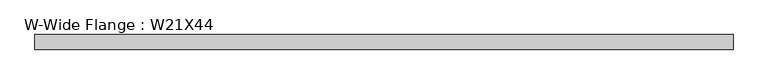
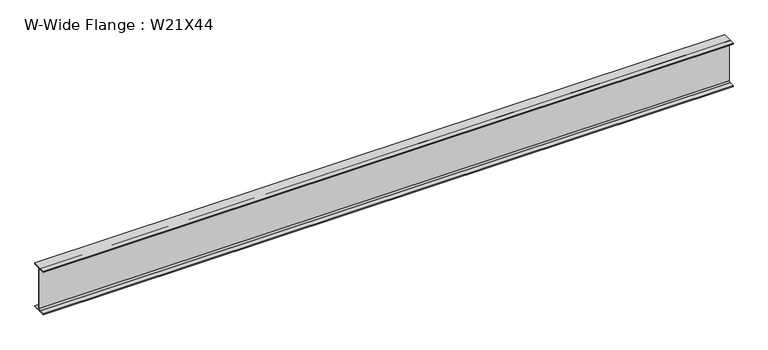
"""IFC4 building model written with IfcOpenShell, lengths in millimetres: beam geometry, W-Wide Flange : W21X44."""

from ifc_helpers import new_model, si_unit, point, frame, frame_2d, origin, place, context, project, spatial, polyline, circle_curve, trimmed, segment, composite_curve, outline, extrude, source, transform, mapped, element, save


def w_wide_flange_w21x44_d1ecdd04(model_context):
    return source(origin(), model_context, "Body", "SweptSolid", [
        extrude(outline(composite_curve([segment(polyline([(82.55, -251.46), (82.55, -262.89), (-82.55, -262.89), (-82.55, -251.46), (-21.59, -251.46)]), True, "CONTINUOUS"), segment(trimmed(circle_curve(frame_2d((-21.59, -234.315)), 17.145), [point((-21.59, -251.46))], [point((-4.445, -234.315))], True, "CARTESIAN"), True, "CONTINUOUS"), segment(polyline([(-4.445, -234.315), (-4.445, 234.315)]), True, "CONTINUOUS"), segment(trimmed(circle_curve(frame_2d((-21.59, 234.315)), 17.145), [point((-4.445, 234.315))], [point((-21.59, 251.46))], True, "CARTESIAN"), True, "CONTINUOUS"), segment(polyline([(-21.59, 251.46), (-82.55, 251.46), (-82.55, 262.89), (82.55, 262.89), (82.55, 251.46), (21.59, 251.46)]), True, "CONTINUOUS"), segment(trimmed(circle_curve(frame_2d((21.59, 234.315)), 17.145), [point((21.59, 251.46))], [point((4.445, 234.315))], True, "CARTESIAN"), True, "CONTINUOUS"), segment(polyline([(4.445, 234.315), (4.445, -234.315)]), True, "CONTINUOUS"), segment(trimmed(circle_curve(frame_2d((21.59, -234.315)), 17.145), [point((4.445, -234.315))], [point((21.59, -251.46))], True, "CARTESIAN"), True, "CONTINUOUS"), segment(polyline([(21.59, -251.46), (82.55, -251.46)]), True, "CONTINUOUS")], self_intersect=False)), frame((-3902.8161313, 0.0, 0.0), z_axis=(1.0, 0.0, 0.0), x_axis=(0.0, 1.0, 0.0)), (0.0, 0.0, 1.0), 7866.3355749),
    ])


if __name__ == "__main__":
    model = new_model("IFC4")
    model_context = context("Model", 3, world=origin())
    ifc_project = project(units=[si_unit("LENGTHUNIT", "METRE", prefix="MILLI")], contexts=[model_context])
    site = spatial("IfcSite", under=ifc_project)
    building = spatial("IfcBuilding", under=site)
    placement = place(None, origin())
    w_wide_flange_w21x44_shape = w_wide_flange_w21x44_d1ecdd04(model_context)
    element("IfcBeam", 1, ObjectType="W-Wide Flange : W21X44", at=placement, inside=building, context=model_context, shape_type="MappedRepresentation", body=[
        mapped(w_wide_flange_w21x44_shape, transform((0.0, 0.0, 0.0), x_axis=(1.0, 0.0, 0.0), y_axis=(0.0, 1.0, 0.0), z_axis=(0.0, 0.0, 1.0))),
    ])
    save(model, "model.ifc")
